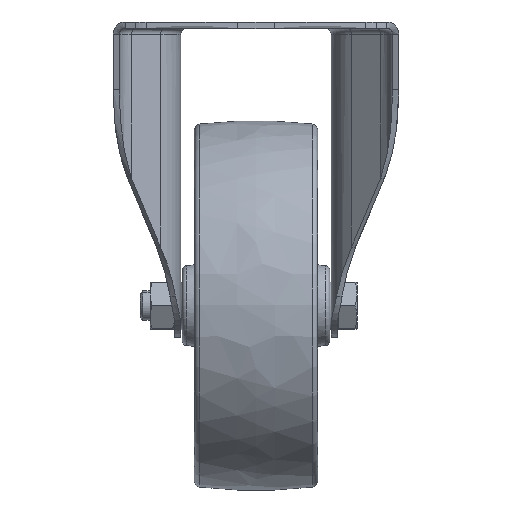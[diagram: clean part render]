
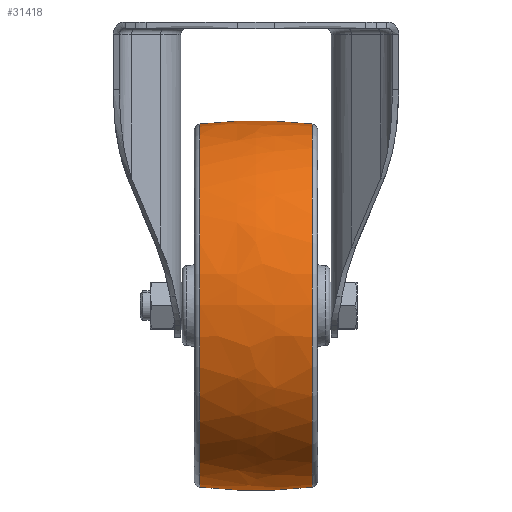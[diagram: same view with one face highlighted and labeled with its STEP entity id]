
A CAD part, top view. The second image highlights one B-rep face of the part: STEP entity #31418.
In plain terms, the highlighted free-form (B-spline) face has degree [3, 3] with [7, 4] control points.
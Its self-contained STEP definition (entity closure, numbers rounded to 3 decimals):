
#1299 = CARTESIAN_POINT ( 'NONE',  ( 7.935, -75.323, 4.739 ) ) ;
#1583 = CARTESIAN_POINT ( 'NONE',  ( 7.935, 46.445, -75.472 ) ) ;
#1861 = CARTESIAN_POINT ( 'NONE',  ( 23.692, -45.288, -73.592 ) ) ;
#2764 = CIRCLE ( 'NONE', #16452, 200. ) ;
#4764 = CARTESIAN_POINT ( 'NONE',  ( 23.692, -73.447, 4.621 ) ) ;
#5200 = DIRECTION ( 'NONE',  ( -1., 0., 0. ) ) ;
#5520 = CARTESIAN_POINT ( 'NONE',  ( -7.935, 46.445, -75.472 ) ) ;
#6088 = CARTESIAN_POINT ( 'NONE',  ( -22.785, -73.698, 0. ) ) ;
#7505 = AXIS2_PLACEMENT_3D ( 'NONE', #8616, #26026, #36122 ) ;
#7675 = DIRECTION ( 'NONE',  ( 0.114, 0.993, 0. ) ) ;
#8267 = CARTESIAN_POINT ( 'NONE',  ( -23.692, -76.29, -40.578 ) ) ;
#8396 = DIRECTION ( 'NONE',  ( 0., 1., 0. ) ) ;
#8568 = CARTESIAN_POINT ( 'NONE',  ( 23.692, 73.447, 4.621 ) ) ;
#8616 = CARTESIAN_POINT ( 'NONE',  ( -22.785, 0., 0. ) ) ;
#8717 = CARTESIAN_POINT ( 'NONE',  ( -7.935, 78.239, -41.615 ) ) ;
#8853 = VERTEX_POINT ( 'NONE', #24525 ) ;
#12185 = CARTESIAN_POINT ( 'NONE',  ( 23.692, -76.29, -40.578 ) ) ;
#12612 = ORIENTED_EDGE ( 'NONE', *, *, #40091, .F. ) ;
#13237 = EDGE_CURVE ( 'NONE', #8853, #15530, #31740, .T. ) ;
#15530 = VERTEX_POINT ( 'NONE', #6088 ) ;
#15779 = CARTESIAN_POINT ( 'NONE',  ( 7.935, 78.239, -41.615 ) ) ;
#15920 = CARTESIAN_POINT ( 'NONE',  ( 7.935, -46.445, -75.472 ) ) ;
#16452 = AXIS2_PLACEMENT_3D ( 'NONE', #27707, #21043, #17778 ) ;
#16754 = ORIENTED_EDGE ( 'NONE', *, *, #13237, .F. ) ;
#17778 = DIRECTION ( 'NONE',  ( 0.114, -0.993, 0. ) ) ;
#18000 =( BOUNDED_SURFACE ( )  B_SPLINE_SURFACE ( 3, 3, ( 
 ( #42599, #21881, #1299, #4764 ),
 ( #8267, #29294, #26116, #12185 ),
 ( #22360, #43345, #15920, #1861 ),
 ( #32917, #25830, #39980, #39384 ),
 ( #33218, #5520, #1583, #22508 ),
 ( #42905, #8717, #15779, #39824 ),
 ( #25976, #32622, #36358, #8568 ) ),
 .UNSPECIFIED., .F., .F., .F. ) 
 B_SPLINE_SURFACE_WITH_KNOTS ( ( 4, 3, 4 ),
 ( 4, 4 ),
 ( 0., 1., 2. ),
 ( 0., 1. ),
 .UNSPECIFIED. ) 
 GEOMETRIC_REPRESENTATION_ITEM ( )  RATIONAL_B_SPLINE_SURFACE ( (
 ( 1.191, 1.186, 1.186, 1.191),
 ( 0.941, 0.936, 0.936, 0.941),
 ( 0.941, 0.936, 0.936, 0.941),
 ( 1.191, 1.186, 1.186, 1.191),
 ( 0.941, 0.936, 0.936, 0.941),
 ( 0.941, 0.936, 0.936, 0.941),
 ( 1.191, 1.186, 1.186, 1.191) ) ) 
 REPRESENTATION_ITEM ( '' )  SURFACE ( )  );
#19704 = CARTESIAN_POINT ( 'NONE',  ( 22.785, 73.698, 0. ) ) ;
#21043 = DIRECTION ( 'NONE',  ( 0., 0., -1. ) ) ;
#21881 = CARTESIAN_POINT ( 'NONE',  ( -7.935, -75.323, 4.739 ) ) ;
#22207 = ORIENTED_EDGE ( 'NONE', *, *, #37592, .T. ) ;
#22360 = CARTESIAN_POINT ( 'NONE',  ( -23.692, -45.288, -73.592 ) ) ;
#22508 = CARTESIAN_POINT ( 'NONE',  ( 23.692, 45.288, -73.592 ) ) ;
#23575 = AXIS2_PLACEMENT_3D ( 'NONE', #39500, #5200, #8396 ) ;
#23918 = AXIS2_PLACEMENT_3D ( 'NONE', #38806, #31578, #7675 ) ;
#24525 = CARTESIAN_POINT ( 'NONE',  ( -22.785, 73.698, 0. ) ) ;
#25830 = CARTESIAN_POINT ( 'NONE',  ( -7.935, 0., -75.472 ) ) ;
#25930 = ORIENTED_EDGE ( 'NONE', *, *, #39526, .T. ) ;
#25976 = CARTESIAN_POINT ( 'NONE',  ( -23.692, 73.447, 4.621 ) ) ;
#26026 = DIRECTION ( 'NONE',  ( -1., 0., 0. ) ) ;
#26116 = CARTESIAN_POINT ( 'NONE',  ( 7.935, -78.239, -41.615 ) ) ;
#26598 = FACE_OUTER_BOUND ( 'NONE', #29930, .T. ) ;
#26896 = CARTESIAN_POINT ( 'NONE',  ( 22.785, -73.698, 0. ) ) ;
#27707 = CARTESIAN_POINT ( 'NONE',  ( 0., 125., 0. ) ) ;
#29294 = CARTESIAN_POINT ( 'NONE',  ( -7.935, -78.239, -41.615 ) ) ;
#29930 = EDGE_LOOP ( 'NONE', ( #22207, #25930, #16754, #12612 ) ) ;
#31302 = CIRCLE ( 'NONE', #23918, 200. ) ;
#31418 = ADVANCED_FACE ( 'NONE', ( #26598 ), #18000, .T. ) ;
#31578 = DIRECTION ( 'NONE',  ( 0., 0., 1. ) ) ;
#31740 = CIRCLE ( 'NONE', #7505, 73.698 ) ;
#32622 = CARTESIAN_POINT ( 'NONE',  ( -7.935, 75.323, 4.739 ) ) ;
#32917 = CARTESIAN_POINT ( 'NONE',  ( -23.692, 0., -73.592 ) ) ;
#32994 = CIRCLE ( 'NONE', #23575, 73.698 ) ;
#33218 = CARTESIAN_POINT ( 'NONE',  ( -23.692, 45.288, -73.592 ) ) ;
#36122 = DIRECTION ( 'NONE',  ( 0., 1., 0. ) ) ;
#36358 = CARTESIAN_POINT ( 'NONE',  ( 7.935, 75.323, 4.739 ) ) ;
#37592 = EDGE_CURVE ( 'NONE', #42335, #39003, #32994, .T. ) ;
#38806 = CARTESIAN_POINT ( 'NONE',  ( 0., -125., 0. ) ) ;
#39003 = VERTEX_POINT ( 'NONE', #26896 ) ;
#39384 = CARTESIAN_POINT ( 'NONE',  ( 23.692, 0., -73.592 ) ) ;
#39500 = CARTESIAN_POINT ( 'NONE',  ( 22.785, 0., 0. ) ) ;
#39526 = EDGE_CURVE ( 'NONE', #39003, #15530, #2764, .T. ) ;
#39824 = CARTESIAN_POINT ( 'NONE',  ( 23.692, 76.29, -40.578 ) ) ;
#39980 = CARTESIAN_POINT ( 'NONE',  ( 7.935, 0., -75.472 ) ) ;
#40091 = EDGE_CURVE ( 'NONE', #42335, #8853, #31302, .T. ) ;
#42335 = VERTEX_POINT ( 'NONE', #19704 ) ;
#42599 = CARTESIAN_POINT ( 'NONE',  ( -23.692, -73.447, 4.621 ) ) ;
#42905 = CARTESIAN_POINT ( 'NONE',  ( -23.692, 76.29, -40.578 ) ) ;
#43345 = CARTESIAN_POINT ( 'NONE',  ( -7.935, -46.445, -75.472 ) ) ;
